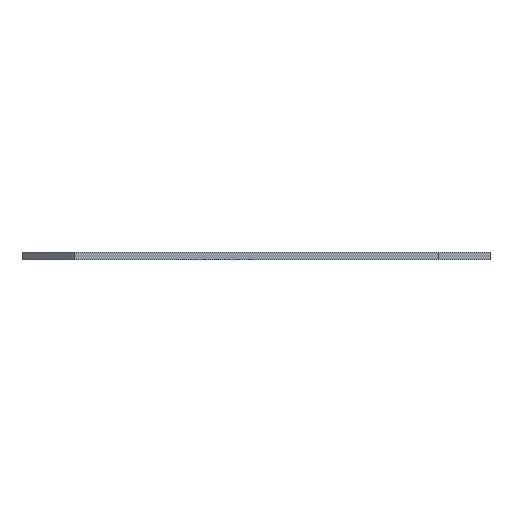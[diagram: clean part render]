
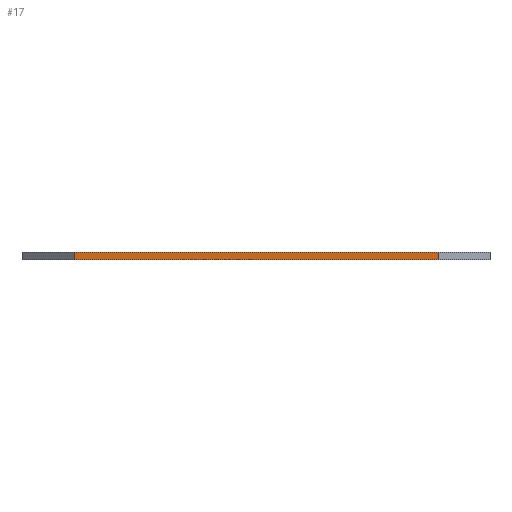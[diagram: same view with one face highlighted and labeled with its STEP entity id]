
A CAD part, front view. The second image highlights one B-rep face of the part: STEP entity #17.
In plain terms, the highlighted planar face has unit normal (0, -1, 0).
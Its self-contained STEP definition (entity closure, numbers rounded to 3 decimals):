
#17 = ADVANCED_FACE('',(#18),#52,.F.);
#18 = FACE_BOUND('',#19,.F.);
#19 = EDGE_LOOP('',(#20,#30,#38,#46));
#20 = ORIENTED_EDGE('',*,*,#21,.T.);
#21 = EDGE_CURVE('',#22,#24,#26,.T.);
#22 = VERTEX_POINT('',#23);
#23 = CARTESIAN_POINT('',(-70.,-130.,18.));
#24 = VERTEX_POINT('',#25);
#25 = CARTESIAN_POINT('',(-70.,-130.,21.));
#26 = LINE('',#27,#28);
#27 = CARTESIAN_POINT('',(-70.,-130.,18.));
#28 = VECTOR('',#29,1.);
#29 = DIRECTION('',(0.,0.,1.));
#30 = ORIENTED_EDGE('',*,*,#31,.T.);
#31 = EDGE_CURVE('',#24,#32,#34,.T.);
#32 = VERTEX_POINT('',#33);
#33 = CARTESIAN_POINT('',(70.,-130.,21.));
#34 = LINE('',#35,#36);
#35 = CARTESIAN_POINT('',(-70.,-130.,21.));
#36 = VECTOR('',#37,1.);
#37 = DIRECTION('',(1.,0.,0.));
#38 = ORIENTED_EDGE('',*,*,#39,.F.);
#39 = EDGE_CURVE('',#40,#32,#42,.T.);
#40 = VERTEX_POINT('',#41);
#41 = CARTESIAN_POINT('',(70.,-130.,18.));
#42 = LINE('',#43,#44);
#43 = CARTESIAN_POINT('',(70.,-130.,18.));
#44 = VECTOR('',#45,1.);
#45 = DIRECTION('',(0.,0.,1.));
#46 = ORIENTED_EDGE('',*,*,#47,.F.);
#47 = EDGE_CURVE('',#22,#40,#48,.T.);
#48 = LINE('',#49,#50);
#49 = CARTESIAN_POINT('',(-70.,-130.,18.));
#50 = VECTOR('',#51,1.);
#51 = DIRECTION('',(1.,0.,0.));
#52 = PLANE('',#53);
#53 = AXIS2_PLACEMENT_3D('',#54,#55,#56);
#54 = CARTESIAN_POINT('',(-70.,-130.,18.));
#55 = DIRECTION('',(0.,1.,0.));
#56 = DIRECTION('',(1.,0.,0.));
